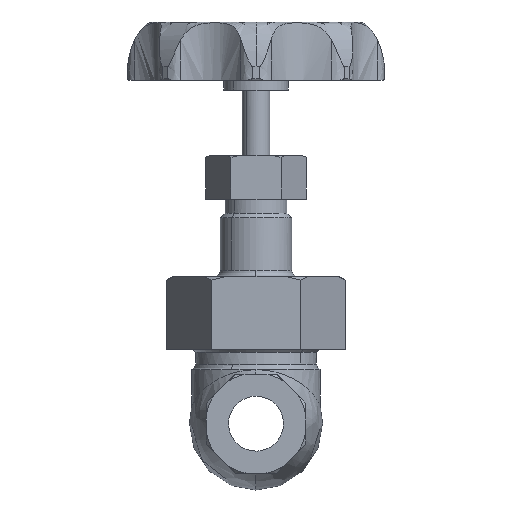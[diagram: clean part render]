
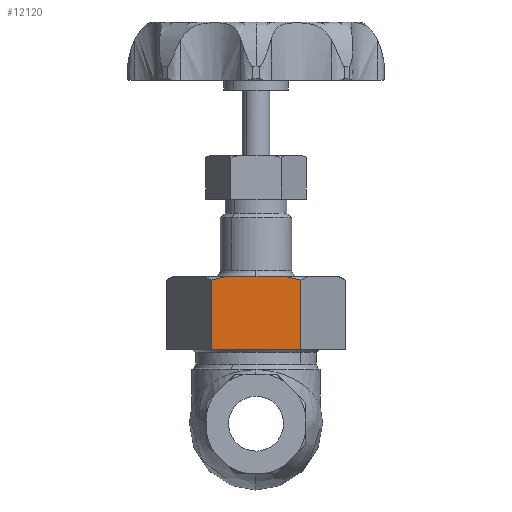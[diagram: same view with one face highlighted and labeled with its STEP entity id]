
A CAD part, left-side view. The second image highlights one B-rep face of the part: STEP entity #12120.
In plain terms, the highlighted free-form (B-spline) face has degree [1, 1] with [2, 2] control points.
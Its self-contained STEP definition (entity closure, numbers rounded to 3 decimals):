
#11870=CARTESIAN_POINT('',(-25.,-14.434,24.));
#11871=VERTEX_POINT('',#11870);
#11877=CARTESIAN_POINT('',(-25.,14.434,24.));
#11878=VERTEX_POINT('',#11877);
#11879=CARTESIAN_POINT('',(-25.,14.434,24.));
#11880=CARTESIAN_POINT('',(-25.,-14.434,24.));
#11881=QUASI_UNIFORM_CURVE('',1,(#11879,#11880),.UNSPECIFIED.,.F.,.U.);
#11882=EDGE_CURVE('',#11878,#11871,#11881,.T.);
#12048=CARTESIAN_POINT('',(-25.,14.434,46.345));
#12049=VERTEX_POINT('',#12048);
#12073=CARTESIAN_POINT('',(-25.,14.434,24.));
#12074=CARTESIAN_POINT('',(-25.,14.434,46.345));
#12075=QUASI_UNIFORM_CURVE('',1,(#12073,#12074),.UNSPECIFIED.,.F.,.U.);
#12076=EDGE_CURVE('',#11878,#12049,#12075,.T.);
#12081=CARTESIAN_POINT('',(-25.,-15.876,22.826));
#12082=CARTESIAN_POINT('',(-25.,-15.876,48.674));
#12083=CARTESIAN_POINT('',(-25.,15.876,22.826));
#12084=CARTESIAN_POINT('',(-25.,15.876,48.674));
#12085=B_SPLINE_SURFACE_WITH_KNOTS('',1,1,((#12081,#12083),(#12082,#12084)),.UNSPECIFIED.,.F.,.F.,.U.,(2,2),(2,2),(0.,25.848),(0.,31.751),.UNSPECIFIED.);
#12086=CARTESIAN_POINT('',(-25.,-9.842,47.5));
#12087=VERTEX_POINT('',#12086);
#12088=CARTESIAN_POINT('',(-25.,-14.434,46.345));
#12089=VERTEX_POINT('',#12088);
#12090=CARTESIAN_POINT('',(-25.,-9.842,47.5));
#12091=CARTESIAN_POINT('',(-25.,-11.386,47.171));
#12092=CARTESIAN_POINT('',(-25.,-12.918,46.786));
#12093=CARTESIAN_POINT('',(-25.,-14.434,46.345));
#12094=B_SPLINE_CURVE_WITH_KNOTS('',3,(#12090,#12091,#12092,#12093),.UNSPECIFIED.,.F.,.U.,(4,4),(0.,4.736),.UNSPECIFIED.);
#12095=EDGE_CURVE('',#12087,#12089,#12094,.T.);
#12096=ORIENTED_EDGE('',*,*,#12095,.F.);
#12097=CARTESIAN_POINT('',(-25.,9.842,47.5));
#12098=VERTEX_POINT('',#12097);
#12099=CARTESIAN_POINT('',(-25.,9.842,47.5));
#12100=CARTESIAN_POINT('',(-25.,-9.842,47.5));
#12101=QUASI_UNIFORM_CURVE('',1,(#12099,#12100),.UNSPECIFIED.,.F.,.U.);
#12102=EDGE_CURVE('',#12098,#12087,#12101,.T.);
#12103=ORIENTED_EDGE('',*,*,#12102,.F.);
#12104=CARTESIAN_POINT('',(-25.,14.434,46.345));
#12105=CARTESIAN_POINT('',(-25.,12.918,46.786));
#12106=CARTESIAN_POINT('',(-25.,11.386,47.171));
#12107=CARTESIAN_POINT('',(-25.,9.842,47.5));
#12108=B_SPLINE_CURVE_WITH_KNOTS('',3,(#12104,#12105,#12106,#12107),.UNSPECIFIED.,.F.,.U.,(4,4),(0.,4.736),.UNSPECIFIED.);
#12109=EDGE_CURVE('',#12049,#12098,#12108,.T.);
#12110=ORIENTED_EDGE('',*,*,#12109,.F.);
#12111=ORIENTED_EDGE('',*,*,#12076,.F.);
#12112=ORIENTED_EDGE('',*,*,#11882,.T.);
#12113=CARTESIAN_POINT('',(-25.,-14.434,24.));
#12114=CARTESIAN_POINT('',(-25.,-14.434,46.345));
#12115=QUASI_UNIFORM_CURVE('',1,(#12113,#12114),.UNSPECIFIED.,.F.,.U.);
#12116=EDGE_CURVE('',#11871,#12089,#12115,.T.);
#12117=ORIENTED_EDGE('',*,*,#12116,.T.);
#12118=EDGE_LOOP('',(#12096,#12103,#12110,#12111,#12112,#12117));
#12119=FACE_OUTER_BOUND('',#12118,.T.);
#12120=ADVANCED_FACE('',(#12119),#12085,.T.);
